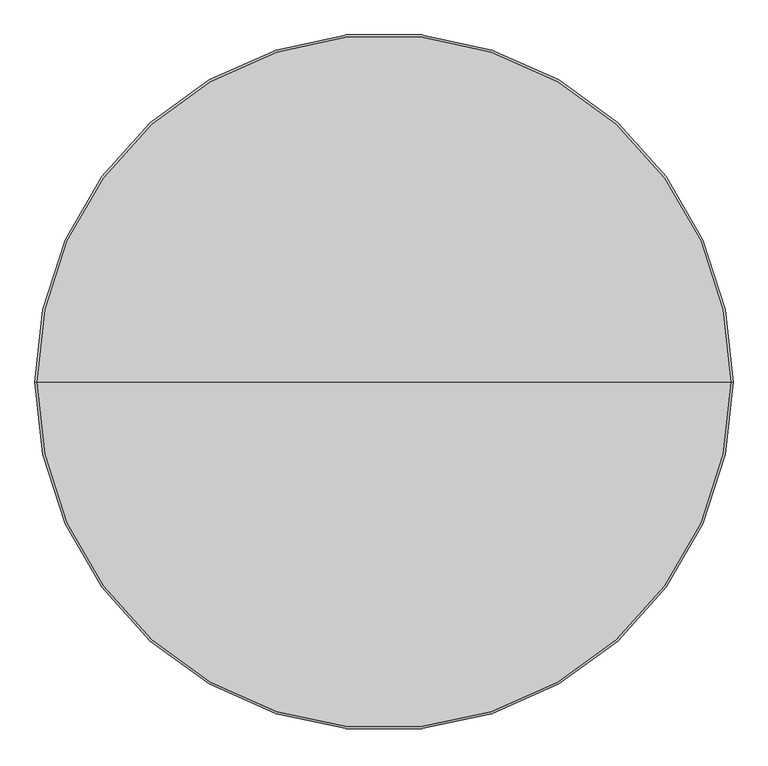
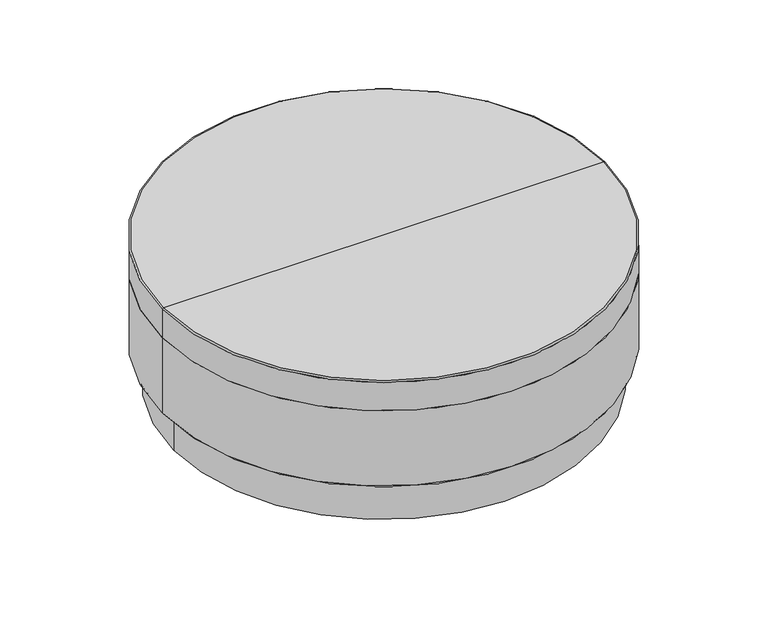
"""IFC4 building model written with IfcOpenShell, lengths in millimetres: furniture geometry, StanceHC-Drum_Table-Plinth_Base : 3-DRT42D16U-PL."""

from ifc_helpers import new_model, si_unit, point, frame, frame_2d, origin, origin_with_axes, place, context, project, spatial, circle_curve, ellipse_curve, trimmed, segment, composite_curve, outline, extrude, source, transform, mapped, element, save
from ifc_brep_helpers import plane_surface, cylinder_surface, revolved_surface, advanced_brep


def furniture_038770ac(model_context):
    return source(origin(), model_context, "Body", "SolidModel", [
        extrude(outline(composite_curve([segment(trimmed(circle_curve(frame_2d((0.0, 478.7164845)), 12.7), [point((-12.7, 478.7164845))], [point((12.7, 478.7164845))], False, "CARTESIAN"), True, "CONTINUOUS"), segment(trimmed(circle_curve(frame_2d((0.0, 478.7164845)), 12.7), [point((12.7, 478.7164845))], [point((-12.7, 478.7164845))], False, "CARTESIAN"), True, "CONTINUOUS")], self_intersect=False)), origin_with_axes(), (0.0, 0.0, 1.0), 4.7625),
        extrude(outline(composite_curve([segment(trimmed(circle_curve(frame_2d((0.0, -478.7164845)), 12.7), [point((-12.7, -478.7164845))], [point((12.7, -478.7164845))], False, "CARTESIAN"), True, "CONTINUOUS"), segment(trimmed(circle_curve(frame_2d((0.0, -478.7164845)), 12.7), [point((12.7, -478.7164845))], [point((-12.7, -478.7164845))], False, "CARTESIAN"), True, "CONTINUOUS")], self_intersect=False)), origin_with_axes(), (0.0, 0.0, 1.0), 4.7625),
        extrude(outline(composite_curve([segment(trimmed(circle_curve(frame_2d((482.5996404, 0.0)), 12.7), [point((469.8996404, 0.0))], [point((495.2996404, 0.0))], False, "CARTESIAN"), True, "CONTINUOUS"), segment(trimmed(circle_curve(frame_2d((482.5996404, 0.0)), 12.7), [point((495.2996404, 0.0))], [point((469.8996404, 0.0))], False, "CARTESIAN"), True, "CONTINUOUS")], self_intersect=False)), origin_with_axes(), (0.0, 0.0, 1.0), 4.7625),
        extrude(outline(composite_curve([segment(trimmed(circle_curve(frame_2d((-482.5996404, 0.0)), 12.7), [point((-495.2996404, 0.0))], [point((-469.8996404, 0.0))], False, "CARTESIAN"), True, "CONTINUOUS"), segment(trimmed(circle_curve(frame_2d((-482.5996404, 0.0)), 12.7), [point((-469.8996404, 0.0))], [point((-495.2996404, 0.0))], False, "CARTESIAN"), True, "CONTINUOUS")], self_intersect=False)), origin_with_axes(), (0.0, 0.0, 1.0), 4.7625),
        advanced_brep(
        [(-534.9542756, 0.0, 106.3625), (534.9542756, 0.0, 106.3625), (511.1746404, 0.0, 106.3625), (-511.1746404, 0.0, 106.3625), (-534.9542756, 0.0, 111.125), (534.9542756, 0.0, 111.125), (0.0, 0.0, 111.125), (-511.1746404, 0.0, 4.7625), (511.1746404, 0.0, 4.7625), (0.0, 0.0, 4.7625)],
        [
            (0, 1, circle_curve(frame((0.0, 0.0, 106.3625), z_axis=(0.0, 0.0, -1.0), x_axis=(1.0, 0.0, 0.0)), 534.9542756)),
            (1, 2),
            (2, 3, circle_curve(frame((0.0, 0.0, 106.3625), z_axis=(0.0, 0.0, 1.0), x_axis=(1.0, 0.0, 0.0)), 511.1746404)),
            (3, 0),
            (1, 0, circle_curve(frame((0.0, 0.0, 106.3625), z_axis=(0.0, 0.0, -1.0), x_axis=(1.0, 0.0, 0.0)), 534.9542756)),
            (3, 2, circle_curve(frame((0.0, 0.0, 106.3625), z_axis=(0.0, 0.0, 1.0), x_axis=(1.0, 0.0, 0.0)), 511.1746404)),
            (4, 5, circle_curve(frame((0.0, 0.0, 111.125), z_axis=(0.0, 0.0, -1.0), x_axis=(1.0, 0.0, 0.0)), 534.9542756)),
            (5, 1, circle_curve(frame((534.9542756, 0.0, 108.74375), z_axis=(0.0, 1.0, 0.0), x_axis=(1.0, 0.0, 0.0)), 2.38125)),
            (0, 4, circle_curve(frame((-534.9542756, 0.0, 108.74375), z_axis=(0.0, 1.0, 0.0), x_axis=(-1.0, 0.0, 0.0)), 2.38125)),
            (5, 4, circle_curve(frame((0.0, 0.0, 111.125), z_axis=(0.0, 0.0, -1.0), x_axis=(1.0, 0.0, 0.0)), 534.9542756)),
            (6, 5),
            (4, 6),
            (7, 8, circle_curve(frame((0.0, 0.0, 4.7625), z_axis=(0.0, 0.0, -1.0), x_axis=(1.0, 0.0, 0.0)), 511.1746404)),
            (8, 9),
            (9, 7),
            (8, 7, circle_curve(frame((0.0, 0.0, 4.7625), z_axis=(0.0, 0.0, -1.0), x_axis=(1.0, 0.0, 0.0)), 511.1746404)),
            (2, 8),
            (7, 3),
        ],
        [
            plane_surface(frame((0.0, 0.0, 106.3625), z_axis=(0.0, 0.0, -1.0), x_axis=(1.0, 0.0, 0.0))),
            revolved_surface(trimmed(ellipse_curve(frame((534.9542756, 0.0, 108.74375), z_axis=(0.0, -1.0, 0.0), x_axis=(1.0, 0.0, 0.0)), 2.38125, 2.38125), [point((534.9542756, 0.0, 106.3625))], [point((534.9542756, 0.0, 111.125))], True, "CARTESIAN"), (0.0, 0.0, 165.1), (0.0, 0.0, 1.0)),
            plane_surface(frame((0.0, 0.0, 111.125), z_axis=(0.0, 0.0, 1.0), x_axis=(1.0, 0.0, 0.0))),
            plane_surface(frame((0.0, 0.0, 4.7625), z_axis=(0.0, 0.0, -1.0), x_axis=(1.0, 0.0, 0.0))),
            cylinder_surface(frame((0.0, 0.0, 165.1), z_axis=(0.0, 0.0, 1.0), x_axis=(1.0, 0.0, 0.0)), 511.1746404),
        ],
        [
            (0, [[1, 2, 3, 4]]),
            (0, [[5, -4, 6, -2]]),
            (1, [[7, 8, -1, 9]]),
            (1, [[10, -9, -5, -8]]),
            (2, [[11, -7, 12]]),
            (2, [[-12, -10, -11]]),
            (3, [[13, 14, 15]]),
            (3, [[16, -15, -14]]),
            (4, [[-3, 17, -13, 18]]),
            (4, [[-6, -18, -16, -17]]),
        ],
    ),
        advanced_brep(
        [(0.0, 0.0, 304.8), (539.75, 0.0, 304.8), (-539.75, 0.0, 304.8), (-539.75, 0.0, 111.125), (539.75, 0.0, 111.125), (0.0, 0.0, 111.125)],
        [
            (0, 1),
            (1, 2, circle_curve(frame((0.0, 0.0, 304.8), z_axis=(0.0, 0.0, 1.0), x_axis=(1.0, 0.0, 0.0)), 539.75)),
            (2, 0),
            (2, 1, circle_curve(frame((0.0, 0.0, 304.8), z_axis=(0.0, 0.0, 1.0), x_axis=(1.0, 0.0, 0.0)), 539.75)),
            (3, 4, circle_curve(frame((0.0, 0.0, 111.125), z_axis=(0.0, 0.0, -1.0), x_axis=(1.0, 0.0, 0.0)), 539.75)),
            (4, 5),
            (5, 3),
            (4, 3, circle_curve(frame((0.0, 0.0, 111.125), z_axis=(0.0, 0.0, -1.0), x_axis=(1.0, 0.0, 0.0)), 539.75)),
            (1, 4),
            (3, 2),
        ],
        [
            plane_surface(frame((0.0, 0.0, 304.8), z_axis=(0.0, 0.0, 1.0), x_axis=(1.0, 0.0, 0.0))),
            plane_surface(frame((0.0, 0.0, 111.125), z_axis=(0.0, 0.0, -1.0), x_axis=(1.0, 0.0, 0.0))),
            cylinder_surface(frame((0.0, 0.0, 457.2), z_axis=(0.0, 0.0, 1.0), x_axis=(1.0, 0.0, 0.0)), 539.75),
        ],
        [
            (0, [[1, 2, 3]]),
            (0, [[-3, 4, -1]]),
            (1, [[5, 6, 7]]),
            (1, [[8, -7, -6]]),
            (2, [[-2, 9, -5, 10]]),
            (2, [[-4, -10, -8, -9]]),
        ],
    ),
        advanced_brep(
        [(-539.75, 0.0, 304.8), (539.75, 0.0, 304.8), (0.0, 0.0, 304.8), (-539.75, 0.0, 377.8764933), (539.75, 0.0, 377.8764933), (-536.6264933, 0.0, 381.0), (536.6264933, 0.0, 381.0), (0.0, 0.0, 381.0)],
        [
            (0, 1, circle_curve(frame((0.0, 0.0, 304.8), z_axis=(0.0, 0.0, -1.0), x_axis=(1.0, 0.0, 0.0)), 539.75)),
            (1, 2),
            (2, 0),
            (1, 0, circle_curve(frame((0.0, 0.0, 304.8), z_axis=(0.0, 0.0, -1.0), x_axis=(1.0, 0.0, 0.0)), 539.75)),
            (3, 4, circle_curve(frame((0.0, 0.0, 377.8764933), z_axis=(0.0, 0.0, -1.0), x_axis=(1.0, 0.0, 0.0)), 539.75)),
            (4, 1),
            (0, 3),
            (4, 3, circle_curve(frame((0.0, 0.0, 377.8764933), z_axis=(0.0, 0.0, -1.0), x_axis=(1.0, 0.0, 0.0)), 539.75)),
            (5, 6, circle_curve(frame((0.0, 0.0, 381.0), z_axis=(0.0, 0.0, -1.0), x_axis=(1.0, 0.0, 0.0)), 536.6264933)),
            (6, 4, circle_curve(frame((536.6264933, 0.0, 377.8764933), z_axis=(0.0, 1.0, 0.0), x_axis=(1.0, 0.0, 0.0)), 3.1235067)),
            (3, 5, circle_curve(frame((-536.6264933, 0.0, 377.8764933), z_axis=(0.0, 1.0, 0.0), x_axis=(-1.0, 0.0, 0.0)), 3.1235067)),
            (6, 5, circle_curve(frame((0.0, 0.0, 381.0), z_axis=(0.0, 0.0, -1.0), x_axis=(1.0, 0.0, 0.0)), 536.6264933)),
            (7, 6),
            (5, 7),
        ],
        [
            plane_surface(frame((0.0, 0.0, 304.8), z_axis=(0.0, 0.0, -1.0), x_axis=(1.0, 0.0, 0.0))),
            cylinder_surface(frame((0.0, 0.0, 476.25), z_axis=(0.0, 0.0, 1.0), x_axis=(1.0, 0.0, 0.0)), 539.75),
            revolved_surface(trimmed(ellipse_curve(frame((536.6264933, 0.0, 377.8764933), z_axis=(0.0, -1.0, 0.0), x_axis=(1.0, 0.0, 0.0)), 3.1235067, 3.1235067), [point((539.75, 0.0, 377.8764933))], [point((536.6264933, 0.0, 381.0))], True, "CARTESIAN"), (0.0, 0.0, 476.25), (0.0, 0.0, 1.0)),
            plane_surface(frame((0.0, 0.0, 381.0), z_axis=(0.0, 0.0, 1.0), x_axis=(1.0, 0.0, 0.0))),
        ],
        [
            (0, [[1, 2, 3]]),
            (0, [[4, -3, -2]]),
            (1, [[5, 6, -1, 7]]),
            (1, [[8, -7, -4, -6]]),
            (2, [[9, 10, -5, 11]]),
            (2, [[12, -11, -8, -10]]),
            (3, [[13, -9, 14]]),
            (3, [[-14, -12, -13]]),
        ],
    ),
    ])


if __name__ == "__main__":
    model = new_model("IFC4")
    model_context = context("Model", 3, world=origin())
    ifc_project = project(units=[si_unit("LENGTHUNIT", "METRE", prefix="MILLI")], contexts=[model_context])
    site = spatial("IfcSite", under=ifc_project)
    building = spatial("IfcBuilding", under=site)
    placement = place(None, origin())
    furniture_shape = furniture_038770ac(model_context)
    element("IfcFurniture", 1, ObjectType="StanceHC-Drum_Table-Plinth_Base : 3-DRT42D16U-PL", at=placement, inside=building, context=model_context, shape_type="MappedRepresentation", body=[
        mapped(furniture_shape, transform((0.0, 0.0, 0.0), x_axis=(1.0, 0.0, 0.0), y_axis=(0.0, 1.0, 0.0), z_axis=(0.0, 0.0, 1.0))),
    ])
    save(model, "model.ifc")
